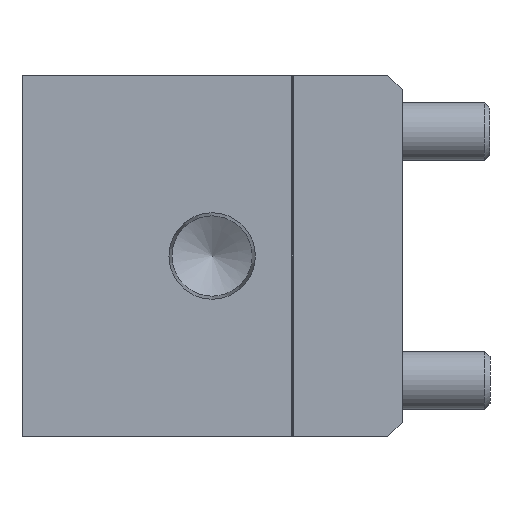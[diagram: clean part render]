
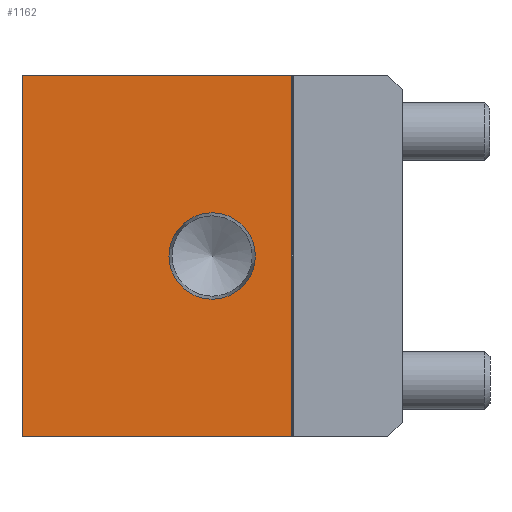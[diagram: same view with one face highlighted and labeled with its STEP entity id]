
A CAD part, left-side view. The second image highlights one B-rep face of the part: STEP entity #1162.
In plain terms, the highlighted planar face has unit normal (-1, 0, 0).
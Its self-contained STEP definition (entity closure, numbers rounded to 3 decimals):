
#1162 = ADVANCED_FACE( '', ( #2623, #2624 ), #2625, .F. );
#2623 = FACE_BOUND( '', #4556, .T. );
#2624 = FACE_OUTER_BOUND( '', #4557, .T. );
#2625 = PLANE( '', #4558 );
#4556 = EDGE_LOOP( '', ( #7355 ) );
#4557 = EDGE_LOOP( '', ( #7356, #7357, #7358, #7359 ) );
#4558 = AXIS2_PLACEMENT_3D( '', #7360, #7361, #7362 );
#7355 = ORIENTED_EDGE( '', *, *, #10971, .T. );
#7356 = ORIENTED_EDGE( '', *, *, #10972, .F. );
#7357 = ORIENTED_EDGE( '', *, *, #10925, .F. );
#7358 = ORIENTED_EDGE( '', *, *, #10973, .T. );
#7359 = ORIENTED_EDGE( '', *, *, #10974, .T. );
#7360 = CARTESIAN_POINT( '', ( 0., 52., 24.75 ) );
#7361 = DIRECTION( '', ( 1., 0., 0. ) );
#7362 = DIRECTION( '', ( 0., 0., -1. ) );
#10925 = EDGE_CURVE( '', #13026, #12425, #13028, .T. );
#10971 = EDGE_CURVE( '', #13088, #13088, #13089, .T. );
#10972 = EDGE_CURVE( '', #12425, #13054, #13090, .T. );
#10973 = EDGE_CURVE( '', #13026, #13091, #13092, .T. );
#10974 = EDGE_CURVE( '', #13091, #13054, #13093, .T. );
#12425 = VERTEX_POINT( '', #14918 );
#13026 = VERTEX_POINT( '', #15731 );
#13028 = LINE( '', #15734, #15735 );
#13054 = VERTEX_POINT( '', #15771 );
#13088 = VERTEX_POINT( '', #15817 );
#13089 = CIRCLE( '', #15818, 5.91 );
#13090 = LINE( '', #15819, #15820 );
#13091 = VERTEX_POINT( '', #15821 );
#13092 = LINE( '', #15822, #15823 );
#13093 = LINE( '', #15824, #15825 );
#14918 = CARTESIAN_POINT( '', ( 0., 15.1, 24.75 ) );
#15731 = CARTESIAN_POINT( '', ( 0., 52., 24.75 ) );
#15734 = CARTESIAN_POINT( '', ( 0., 52., 24.75 ) );
#15735 = VECTOR( '', #17973, 1000. );
#15771 = CARTESIAN_POINT( '', ( 0., 15.1, -24.75 ) );
#15817 = CARTESIAN_POINT( '', ( 0., 26., -5.91 ) );
#15818 = AXIS2_PLACEMENT_3D( '', #18020, #18021, #18022 );
#15819 = CARTESIAN_POINT( '', ( 0., 15.1, 24.75 ) );
#15820 = VECTOR( '', #18023, 1000. );
#15821 = CARTESIAN_POINT( '', ( 0., 52., -24.75 ) );
#15822 = CARTESIAN_POINT( '', ( 0., 52., 24.75 ) );
#15823 = VECTOR( '', #18024, 1000. );
#15824 = CARTESIAN_POINT( '', ( 0., 52., -24.75 ) );
#15825 = VECTOR( '', #18025, 1000. );
#17973 = DIRECTION( '', ( 0., -1., 0. ) );
#18020 = CARTESIAN_POINT( '', ( 0., 26., 0. ) );
#18021 = DIRECTION( '', ( 1., 0., 0. ) );
#18022 = DIRECTION( '', ( 0., 0., -1. ) );
#18023 = DIRECTION( '', ( 0., 0., -1. ) );
#18024 = DIRECTION( '', ( 0., 0., -1. ) );
#18025 = DIRECTION( '', ( 0., -1., 0. ) );
